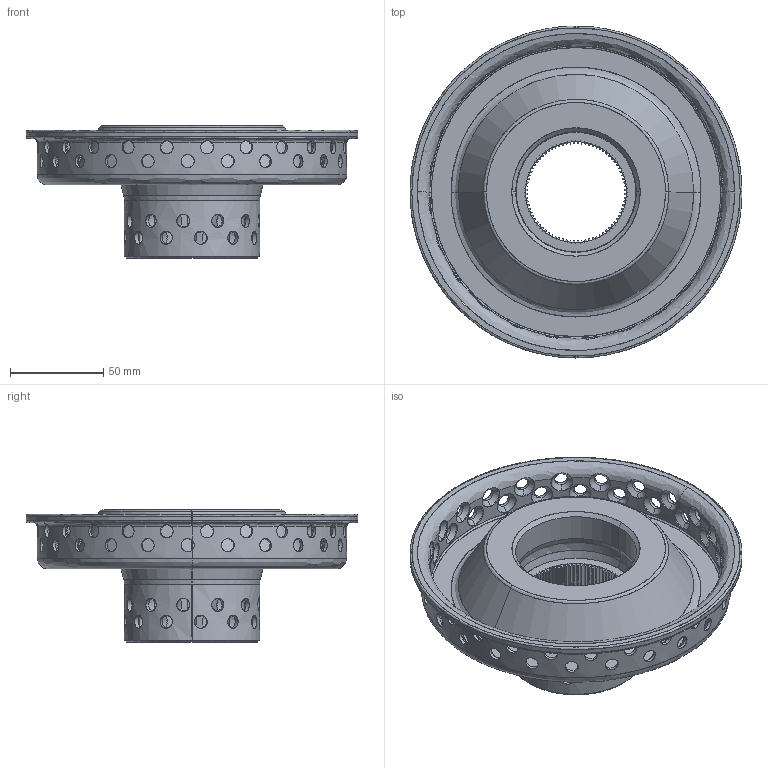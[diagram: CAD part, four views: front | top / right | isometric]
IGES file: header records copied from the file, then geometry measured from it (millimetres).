
Start section: SolidWorks IGES file using analytic representation for surfaces
Global section: file name: D:\??????? ? ?????\Ruote Borrani\Maserati 3500,5000 5.5j\Maserati 3500,5000 5.5j center section splined.IGS; native system: SolidWorks 2019; preprocessor: SolidWorks 2019; author: GOD; date: 250326.121615; units: millimetre
Bounding box: 178 x 178 x 71 mm (x, y, z)
Surface area: 99975.3 mm2 (no closed solid volume)
Topology: 0 solids, 0 shells, 907 faces, 14394 edges, 14394 vertices
Faces by surface type: revolution 713, bspline 194
